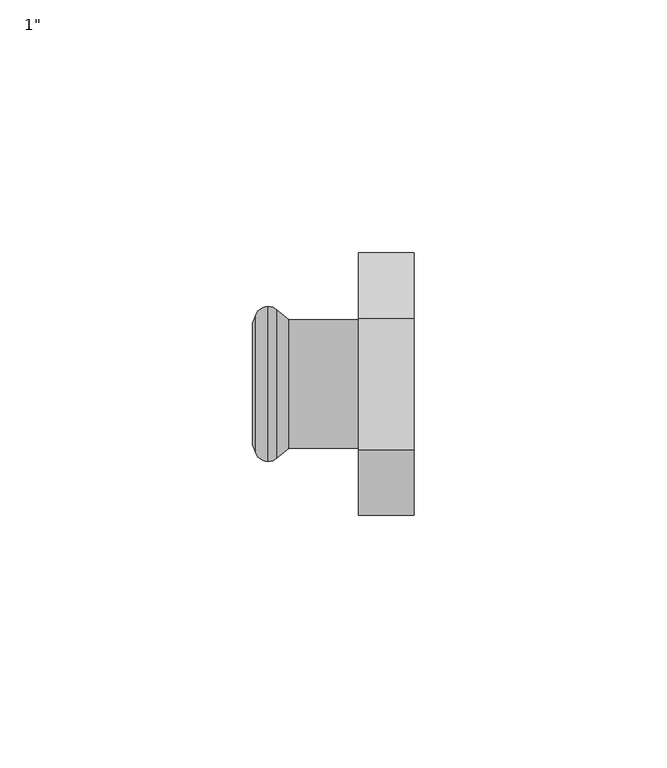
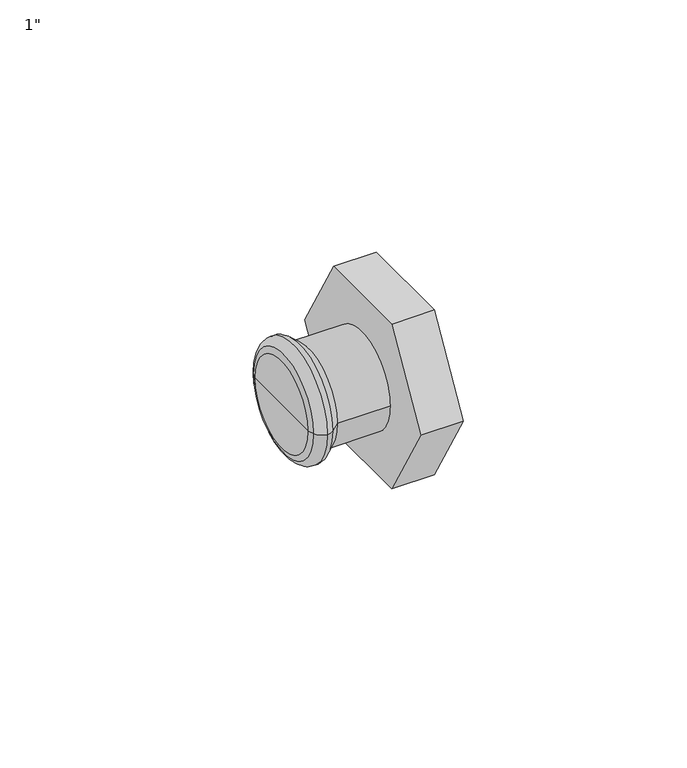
"""IFC4 building model written with IfcOpenShell, lengths in millimetres: pipe fitting geometry."""

import ifcopenshell
import ifcopenshell.guid

model = None  # the IFC model being written
_history = None  # IfcOwnerHistory: only IFC2X3 demands one
_inside = {}  # id of a spatial element -> (the spatial element, [elements in it])
_under = {}  # id of a project, library or spatial element -> (it, [spatial elements below it])
_declared = {}  # id of a project -> (the project, [libraries it declares])
_typed = {}  # id of a type object -> (the type object, [elements of that type])
_made_of = {}  # id of a material, layer set ... -> (it, [elements and type objects made of it])


def new_model(schema):
    """Start an empty IFC model of exactly this schema.

    Asked for "IFC4X3", IfcOpenShell would pick the latest addendum, in which some entities
    have other attributes; the version numbers below select the first issue.
    IFC2X3 requires an IfcOwnerHistory on every rooted entity: one is made here for all.
    """
    global model, _history
    if schema == "IFC4X3":
        model = ifcopenshell.file(schema_version=(4, 3, 0, 0))
    else:
        model = ifcopenshell.file(schema=schema)
    _inside.clear()
    _under.clear()
    _declared.clear()
    _typed.clear()
    _made_of.clear()
    _history = None
    if model.schema == "IFC2X3":
        org = make("IfcOrganization", Name="unknown")
        user = make(
            "IfcPersonAndOrganization",
            ThePerson=make("IfcPerson", FamilyName="unknown"),
            TheOrganization=org,
        )
        app = make(
            "IfcApplication",
            ApplicationDeveloper=org,
            Version="unknown",
            ApplicationFullName="unknown",
            ApplicationIdentifier="unknown",
        )
        _history = make(
            "IfcOwnerHistory",
            OwningUser=user,
            OwningApplication=app,
            ChangeAction="ADDED",
            CreationDate=0,
        )
    return model


def make(cls, **values):
    """One entity of the class cls with the attributes given. An attribute that is None is left unset."""
    return model.create_entity(
        cls, **{name: value for name, value in values.items() if value is not None}
    )


def rooted(cls, **values):
    """An entity with a GlobalId (a new one), such as an element, a storey or a relation."""
    return make(cls, GlobalId=ifcopenshell.guid.new(), OwnerHistory=_history, **values)


def si_unit(unit_type, name, prefix=None):
    """IfcSIUnit, for example si_unit("LENGTHUNIT", "METRE", prefix="MILLI")."""
    return make("IfcSIUnit", UnitType=unit_type, Prefix=prefix, Name=name)


def assignment(units):
    """IfcUnitAssignment: the units of a project."""
    return None if units is None else make("IfcUnitAssignment", Units=units)


def point(xyz):
    """IfcCartesianPoint."""
    return None if xyz is None else make("IfcCartesianPoint", Coordinates=xyz)


def direction(xyz):
    """IfcDirection."""
    return None if xyz is None else make("IfcDirection", DirectionRatios=xyz)


def frame(location, z_axis=None, x_axis=None):
    """IfcAxis2Placement3D, a coordinate frame: its origin and axes. An axis left out is left unset."""
    return make(
        "IfcAxis2Placement3D",
        Location=point(location),
        Axis=direction(z_axis),
        RefDirection=direction(x_axis),
    )


def origin():
    """The frame at (0, 0, 0) with its axes left unset."""
    return frame((0.0, 0.0, 0.0))


def place(relative_to, where):
    """IfcLocalPlacement: puts the frame where relative to a parent placement (None: the world)."""
    return make(
        "IfcLocalPlacement", PlacementRelTo=relative_to, RelativePlacement=where
    )


def context(
    kind, dimensions, precision=None, world=None, true_north=None, identifier=None
):
    """IfcGeometricRepresentationContext, for example the 3D "Model" context."""
    return make(
        "IfcGeometricRepresentationContext",
        ContextIdentifier=identifier,
        ContextType=kind,
        CoordinateSpaceDimension=dimensions,
        Precision=precision,
        WorldCoordinateSystem=world,
        TrueNorth=true_north,
    )


def project(units=None, contexts=None):
    """IfcProject with its units and contexts."""
    return rooted(
        "IfcProject",
        Name="project",
        RepresentationContexts=contexts,
        UnitsInContext=assignment(units),
    )


def spatial(cls, under=None, at=None, **own):
    """A site, building, storey or space (cls), placed at a placement, below another one or the project."""
    s = rooted(cls, ObjectPlacement=at, **own)
    if under is not None:
        _under.setdefault(under.id(), (under, []))[1].append(s)
    return s


def polyline(points):
    """IfcPolyline through the points."""
    return make("IfcPolyline", Points=[point(p) for p in points])


def circle_curve(where, radius):
    """IfcCircle in the frame where."""
    return make("IfcCircle", Position=where, Radius=radius)


def ellipse_curve(where, semi_axis1, semi_axis2):
    """IfcEllipse in the frame where."""
    return make(
        "IfcEllipse", Position=where, SemiAxis1=semi_axis1, SemiAxis2=semi_axis2
    )


def trimmed(basis, trim1, trim2, sense, master):
    """IfcTrimmedCurve: the piece of a basis curve between two trims."""
    return make(
        "IfcTrimmedCurve",
        BasisCurve=basis,
        Trim1=trim1,
        Trim2=trim2,
        SenseAgreement=sense,
        MasterRepresentation=master,
    )


def outline(outer, holes=None, kind="AREA"):
    """IfcArbitraryClosedProfileDef: a profile drawn as a closed curve; with holes, ...WithVoids."""
    if holes is None:
        return make("IfcArbitraryClosedProfileDef", ProfileType=kind, OuterCurve=outer)
    return make(
        "IfcArbitraryProfileDefWithVoids",
        ProfileType=kind,
        OuterCurve=outer,
        InnerCurves=holes,
    )


def extrude(swept, where, along, depth):
    """IfcExtrudedAreaSolid: the profile swept, set in the frame where, extruded along a direction by depth."""
    return make(
        "IfcExtrudedAreaSolid",
        SweptArea=swept,
        Position=where,
        ExtrudedDirection=direction(along),
        Depth=depth,
    )


def shape(context_of_items, identifier, shape_type, items):
    """IfcShapeRepresentation: the items that make up one representation, for example the "Body"."""
    return make(
        "IfcShapeRepresentation",
        ContextOfItems=context_of_items,
        RepresentationIdentifier=identifier,
        RepresentationType=shape_type,
        Items=items,
    )


def source(mapping_origin, context_of_items, identifier, shape_type, items):
    """IfcRepresentationMap: a shape defined once, which mapped items show again and again."""
    return make(
        "IfcRepresentationMap",
        MappingOrigin=mapping_origin,
        MappedRepresentation=shape(context_of_items, identifier, shape_type, items),
    )


def transform(
    local_origin,
    x_axis=None,
    y_axis=None,
    z_axis=None,
    scale=None,
    scale2=None,
    scale3=None,
    uniform=True,
):
    """IfcCartesianTransformationOperator3D, or its non-uniform kind. x_axis, y_axis, z_axis: its Axis1, 2, 3."""
    if uniform:
        return make(
            "IfcCartesianTransformationOperator3D",
            Axis1=direction(x_axis),
            Axis2=direction(y_axis),
            LocalOrigin=point(local_origin),
            Scale=scale,
            Axis3=direction(z_axis),
        )
    return make(
        "IfcCartesianTransformationOperator3DnonUniform",
        Axis1=direction(x_axis),
        Axis2=direction(y_axis),
        LocalOrigin=point(local_origin),
        Scale=scale,
        Axis3=direction(z_axis),
        Scale2=scale2,
        Scale3=scale3,
    )


def mapped(mapping_source, mapping_target):
    """IfcMappedItem: shows the shape of a source again, moved by a transform."""
    return make(
        "IfcMappedItem", MappingSource=mapping_source, MappingTarget=mapping_target
    )


def made_of(thing, what):
    """Note that an element or type object is made of a material, layer set ...; save() writes the relation."""
    if what is not None:
        _made_of.setdefault(what.id(), (what, []))[1].append(thing)
    return thing


def element(
    cls,
    number,
    at=None,
    inside=None,
    cuts=None,
    type_object=None,
    material=None,
    context=None,
    identifier="Body",
    shape_type=None,
    held_by="IfcProductDefinitionShape",
    body=None,
    shapes=None,
    **own,
):
    """One element of the class cls, such as IfcWall. Its Tag is "e" and its number.

    at: its placement. inside: the storey or other place that contains it. cuts: it is an
    opening in that element (IfcRelVoidsElement). A single representation is given by context,
    identifier, shape_type and body (its items); several are given by shapes. held_by: the class
    of the entity that holds the representations. save() writes the other relations.
    """
    e = rooted(cls, Tag="e%d" % number, ObjectPlacement=at, **own)
    if body is not None:
        shapes = [shape(context, identifier, shape_type, body)]
    if shapes is not None:
        e.Representation = make(held_by, Representations=shapes)
    if inside is not None:
        _inside.setdefault(inside.id(), (inside, []))[1].append(e)
    if cuts is not None:
        rooted(
            "IfcRelVoidsElement", RelatingBuildingElement=cuts, RelatedOpeningElement=e
        )
    if type_object is not None:
        _typed.setdefault(type_object.id(), (type_object, []))[1].append(e)
    return made_of(e, material)


def aggregate(whole, parts):
    """IfcRelAggregates: a whole, such as a stair, and the parts it consists of."""
    return rooted("IfcRelAggregates", RelatingObject=whole, RelatedObjects=parts)


def save(model, path):
    """Write the relations noted so far, then the file.

    IfcRelAggregates (storeys below a building ...), IfcRelContainedInSpatialStructure (elements
    in a storey), IfcRelDefinesByType, IfcRelAssociatesMaterial and IfcRelDeclares: one each for
    every whole, place, type object, material and project.
    """
    for whole, parts in _under.values():
        aggregate(whole, parts)
    for where, things in _inside.values():
        rooted(
            "IfcRelContainedInSpatialStructure",
            RelatedElements=things,
            RelatingStructure=where,
        )
    for kind, things in _typed.values():
        rooted("IfcRelDefinesByType", RelatedObjects=things, RelatingType=kind)
    for what, things in _made_of.values():
        rooted("IfcRelAssociatesMaterial", RelatedObjects=things, RelatingMaterial=what)
    for by, libraries in _declared.values():
        rooted("IfcRelDeclares", RelatingContext=by, RelatedDefinitions=libraries)
    model.write(path)


def plane_surface(at):
    """IfcPlane: the flat surface through the origin of the frame at, square to its z axis."""
    return make("IfcPlane", Position=at)


def cylinder_surface(at, radius):
    """IfcCylindricalSurface: all points at the distance radius from the z axis of the frame at."""
    return make("IfcCylindricalSurface", Position=at, Radius=radius)


def revolved_surface(curve, axis_point, axis_direction):
    """IfcSurfaceOfRevolution: the curve turned about the line through axis_point along axis_direction."""
    return make(
        "IfcSurfaceOfRevolution",
        SweptCurve=make("IfcArbitraryOpenProfileDef", ProfileType="CURVE", Curve=curve),
        AxisPosition=make("IfcAxis1Placement", Location=point(axis_point), Axis=direction(axis_direction)),
    )


def advanced_brep(points, edges, surfaces, faces):
    """IfcAdvancedBrep: a solid bounded by faces that lie on surfaces and meet in shared edges.

    An edge is (start, end): straight between two places in points (the first is 0);
    or (start, end, curve); or (start, end, curve, False) where it runs against its curve.
    A face is (place in surfaces, loops), or (place, loops, False) where it looks against
    its surface's normal. A loop lists edges by number (the first is 1), with a minus sign
    where the edge is run from its end to its start. The first loop is the outer one.
    """
    corners = [point(p) for p in points]
    vertices = [make("IfcVertexPoint", VertexGeometry=c) for c in corners]
    made = []
    for start, end, *more in edges:
        made.append(
            make(
                "IfcEdgeCurve",
                EdgeStart=vertices[start],
                EdgeEnd=vertices[end],
                EdgeGeometry=more[0] if more else make("IfcPolyline", Points=[corners[start], corners[end]]),
                SameSense=more[1] if len(more) > 1 else True,
            )
        )
    hull = []
    for where, loops, *sense in faces:
        bounds = []
        for j, loop in enumerate(loops):
            ring = [make("IfcOrientedEdge", EdgeElement=made[abs(k) - 1], Orientation=k > 0) for k in loop]
            bounds.append(
                make(
                    "IfcFaceOuterBound" if j == 0 else "IfcFaceBound",
                    Bound=make("IfcEdgeLoop", EdgeList=ring),
                    Orientation=True,
                )
            )
        hull.append(make("IfcAdvancedFace", Bounds=bounds, FaceSurface=surfaces[where], SameSense=sense[0] if sense else True))
    return make("IfcAdvancedBrep", Outer=make("IfcClosedShell", CfsFaces=hull))


def pipe_fitting_d79643fc(model_context):
    return source(origin(), model_context, "Body", "SolidModel", [
        extrude(outline(polyline([(-25.9807621, 0.0), (-12.9903811, 22.5), (12.9903811, 22.5), (25.9807621, 0.0), (12.9903811, -22.5), (-12.9903811, -22.5), (-25.9807621, 0.0)])), frame((0.0, 0.0, 0.0), z_axis=(1.0, 0.0, 0.0), x_axis=(0.0, 1.0, 0.0)), (0.0, 0.0, 1.0), 11.0),
        advanced_brep(
        [(-13.7838092, -12.7, 0.0), (-13.7838092, 12.7, 0.0), (0.0, 12.7, 0.0), (0.0, -12.7, 0.0), (-16.0922627, -14.6370225, 0.0), (-16.0922627, 14.6370225, 0.0), (-17.8921278, -15.325, 0.0), (-17.8921278, 15.325, 0.0), (-20.432052, -13.5484544, 0.0), (-20.432052, 13.5484544, 0.0), (-21.0, -11.9880302, 0.0), (-21.0, 11.9880302, 0.0), (-21.0, 0.0, 0.0), (0.0, 0.0, 0.0)],
        [
            (0, 1, circle_curve(frame((-13.7838092, 0.0, 0.0), z_axis=(1.0, 0.0, 0.0), x_axis=(0.0, 1.0, 0.0)), 12.7)),
            (1, 2),
            (2, 3, circle_curve(frame((0.0, 0.0, 0.0), z_axis=(-1.0, 0.0, 0.0), x_axis=(0.0, 1.0, 0.0)), 12.7)),
            (3, 0),
            (1, 0, circle_curve(frame((-13.7838092, 0.0, 0.0), z_axis=(1.0, 0.0, 0.0), x_axis=(0.0, 1.0, 0.0)), 12.7)),
            (3, 2, circle_curve(frame((0.0, 0.0, 0.0), z_axis=(-1.0, 0.0, 0.0), x_axis=(0.0, 1.0, 0.0)), 12.7)),
            (4, 5, circle_curve(frame((-16.0922627, 0.0, 0.0), z_axis=(1.0, 0.0, 0.0), x_axis=(0.0, 1.0, 0.0)), 14.6370225)),
            (5, 1),
            (0, 4),
            (5, 4, circle_curve(frame((-16.0922627, 0.0, 0.0), z_axis=(1.0, 0.0, 0.0), x_axis=(0.0, 1.0, 0.0)), 14.6370225)),
            (6, 7, circle_curve(frame((-17.8921278, 0.0, 0.0), z_axis=(1.0, 0.0, 0.0), x_axis=(0.0, 1.0, 0.0)), 15.325)),
            (7, 5, circle_curve(frame((-17.8935049, 12.6230333, 0.0), z_axis=(0.0, 0.0, -1.0), x_axis=(1.0, 0.0, 0.0)), 2.701967)),
            (4, 6, circle_curve(frame((-17.8935049, -12.6230333, 0.0), z_axis=(0.0, 0.0, -1.0), x_axis=(1.0, 0.0, 0.0)), 2.701967)),
            (7, 6, circle_curve(frame((-17.8921278, 0.0, 0.0), z_axis=(1.0, 0.0, 0.0), x_axis=(0.0, 1.0, 0.0)), 15.325)),
            (8, 9, circle_curve(frame((-20.432052, 0.0, 0.0), z_axis=(1.0, 0.0, 0.0), x_axis=(0.0, 1.0, 0.0)), 13.5484544)),
            (9, 7, circle_curve(frame((-17.89488, 12.6249993, 0.0), z_axis=(0.0, 0.0, -1.0), x_axis=(1.0, 0.0, 0.0)), 2.7000021)),
            (6, 8, circle_curve(frame((-17.89488, -12.6249993, 0.0), z_axis=(0.0, 0.0, -1.0), x_axis=(1.0, 0.0, 0.0)), 2.7000021)),
            (9, 8, circle_curve(frame((-20.432052, 0.0, 0.0), z_axis=(1.0, 0.0, 0.0), x_axis=(0.0, 1.0, 0.0)), 13.5484544)),
            (10, 11, circle_curve(frame((-21.0, 0.0, 0.0), z_axis=(1.0, 0.0, 0.0), x_axis=(0.0, 1.0, 0.0)), 11.9880302)),
            (11, 9),
            (8, 10),
            (11, 10, circle_curve(frame((-21.0, 0.0, 0.0), z_axis=(1.0, 0.0, 0.0), x_axis=(0.0, 1.0, 0.0)), 11.9880302)),
            (12, 11),
            (10, 12),
            (2, 13),
            (13, 3),
        ],
        [
            cylinder_surface(frame((1339.742668, 0.0, 0.0), z_axis=(-1.0, 0.0, 0.0), x_axis=(0.0, 1.0, 0.0)), 12.7),
            revolved_surface(polyline([(-13.7838092, 12.7, 0.0), (-16.0922627, 14.6370225, 0.0)]), (1339.742668, 0.0, 0.0), (-1.0, 0.0, 0.0)),
            revolved_surface(trimmed(ellipse_curve(frame((-17.8935049, 12.6230333, 0.0), z_axis=(0.0, 0.0, 1.0), x_axis=(1.0, 0.0, 0.0)), 2.701967, 2.701967), [point((-16.0922627, 14.6370225, 0.0))], [point((-17.8921278, 15.325, 0.0))], True, "CARTESIAN"), (1339.742668, 0.0, 0.0), (-1.0, 0.0, 0.0)),
            revolved_surface(trimmed(ellipse_curve(frame((-17.89488, 12.6249993, 0.0), z_axis=(0.0, 0.0, 1.0), x_axis=(1.0, 0.0, 0.0)), 2.7000021, 2.7000021), [point((-17.8921278, 15.325, 0.0))], [point((-20.432052, 13.5484544, 0.0))], True, "CARTESIAN"), (1339.742668, 0.0, 0.0), (-1.0, 0.0, 0.0)),
            revolved_surface(polyline([(-20.432052, 13.5484544, 0.0), (-21.0, 11.9880302, 0.0)]), (1339.742668, 0.0, 0.0), (-1.0, 0.0, 0.0)),
            plane_surface(frame((-21.0, 0.0, 0.0), z_axis=(-1.0, 0.0, 0.0), x_axis=(0.0, 1.0, 0.0))),
            plane_surface(frame((0.0, 0.0, 0.0), z_axis=(1.0, 0.0, 0.0), x_axis=(0.0, 1.0, 0.0))),
        ],
        [
            (0, [[1, 2, 3, 4]]),
            (0, [[5, -4, 6, -2]]),
            (1, [[7, 8, -1, 9]]),
            (1, [[10, -9, -5, -8]]),
            (2, [[11, 12, -7, 13]]),
            (2, [[14, -13, -10, -12]]),
            (3, [[15, 16, -11, 17]]),
            (3, [[18, -17, -14, -16]]),
            (4, [[19, 20, -15, 21]]),
            (4, [[22, -21, -18, -20]]),
            (5, [[23, -19, 24]]),
            (5, [[-24, -22, -23]]),
            (6, [[-3, 25, 26]]),
            (6, [[-6, -26, -25]]),
        ],
    ),
    ])


if __name__ == "__main__":
    model = new_model("IFC4")
    model_context = context("Model", 3, world=origin())
    ifc_project = project(units=[si_unit("LENGTHUNIT", "METRE", prefix="MILLI")], contexts=[model_context])
    site = spatial("IfcSite", under=ifc_project)
    building = spatial("IfcBuilding", under=site)
    placement = place(None, origin())
    pipe_fitting_shape = pipe_fitting_d79643fc(model_context)
    element("IfcPipeFitting", 1, ObjectType="KAN-therm Steel półśrubunek GW : 1\"", at=placement, inside=building, context=model_context, shape_type="MappedRepresentation", body=[
        mapped(pipe_fitting_shape, transform((0.0, 0.0, 0.0), x_axis=(1.0, 0.0, 0.0), y_axis=(0.0, 1.0, 0.0), z_axis=(0.0, 0.0, 1.0))),
    ])
    save(model, "model.ifc")
